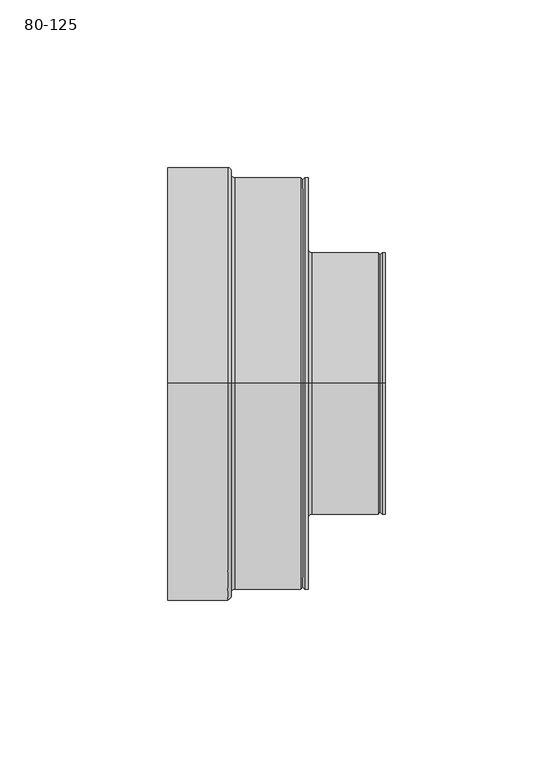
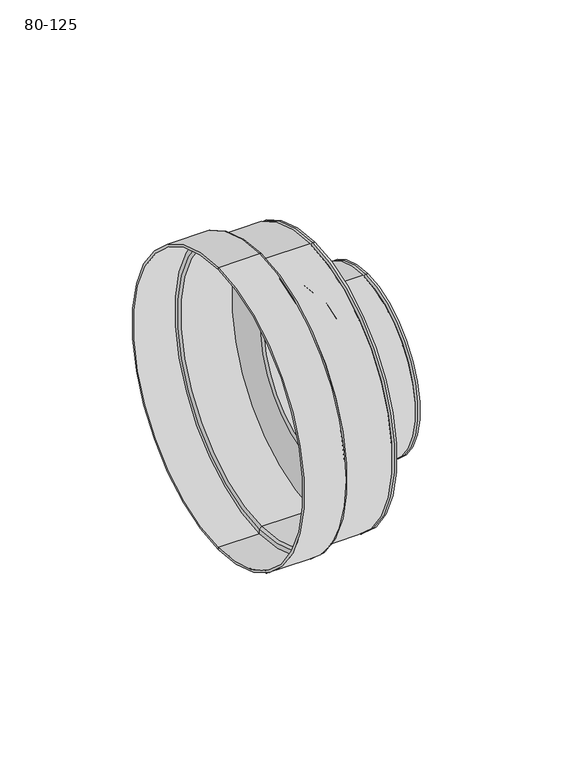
"""IFC4 building model written with IfcOpenShell, lengths in millimetres: duct fitting geometry, Renson_Healthbox 3_Reducer_Round_Adapter 80-125 : 80-125."""

from ifc_helpers import new_model, si_unit, point, frame, origin, place, context, project, spatial, polyline, circle_curve, ellipse_curve, trimmed, source, transform, mapped, element, save
from ifc_brep_helpers import plane_surface, cylinder_surface, revolved_surface, advanced_brep


def duct_fitting_80_125_58550554(model_context):
    return source(origin(), model_context, "Body", "AdvancedBrep", [
        advanced_brep(
        [(42.0, 0.0, 40.25), (42.0, 0.0, 61.75), (42.0, 0.0, -61.75), (42.0, 0.0, -40.25), (43.0, 0.0, 39.25), (43.0, 0.0, -39.25), (62.7977717, 0.0, 39.25), (62.7977717, 0.0, -39.25), (63.2928932, 0.0, 38.5428932), (63.2928932, 0.0, -38.5428932), (64.0, 0.0, 39.25), (64.0, 0.0, -39.25), (65.0, 0.0, 39.25), (65.0, 0.0, -39.25), (65.0, 0.0, 38.25), (65.0, 0.0, -38.25), (42.0, 0.0, 38.25), (42.0, 0.0, -38.25), (41.0, 0.0, 39.25), (41.0, 0.0, -39.25), (41.0, 0.0, 60.75), (41.0, 0.0, -60.75), (19.0, 0.0, 60.75), (19.0, 0.0, -60.75), (18.0, 0.0, 61.75), (18.0, 0.0, -61.75), (18.0, 0.0, 63.75), (18.0, 0.0, -63.75), (0.0, 0.0, 63.75), (0.0, 0.0, -63.75), (0.0, 0.0, 64.75), (0.0, 0.0, -64.75), (18.0, 0.0, 64.75), (18.0, 0.0, -64.75), (19.0, 0.0, 63.75), (19.0, 0.0, -63.75), (19.0, 0.0, 62.75), (19.0, 0.0, -62.75), (20.0, 0.0, 61.75), (20.0, 0.0, -61.75), (39.7977717, 0.0, 61.75), (39.7977717, 0.0, -61.75), (40.2928932, 0.0, 61.0428932), (40.2928932, 0.0, -61.0428932), (41.0, 0.0, 61.75), (41.0, 0.0, -61.75)],
        [
            (0, 1),
            (1, 2, circle_curve(frame((42.0, 0.0, 0.0), z_axis=(1.0, 0.0, 0.0), x_axis=(0.0, 0.0, -1.0)), 61.75)),
            (2, 3),
            (3, 0, circle_curve(frame((42.0, 0.0, 0.0), z_axis=(-1.0, 0.0, 0.0), x_axis=(0.0, 0.0, -1.0)), 40.25)),
            (2, 1, circle_curve(frame((42.0, 0.0, 0.0), z_axis=(1.0, 0.0, 0.0), x_axis=(0.0, 0.0, -1.0)), 61.75)),
            (0, 3, circle_curve(frame((42.0, 0.0, 0.0), z_axis=(-1.0, 0.0, 0.0), x_axis=(0.0, 0.0, -1.0)), 40.25)),
            (4, 0, circle_curve(frame((43.0, 0.0, 40.25), z_axis=(0.0, 1.0, 0.0), x_axis=(-1.0, 0.0, 0.0)), 1.0)),
            (3, 5, circle_curve(frame((43.0, 0.0, -40.25), z_axis=(0.0, 1.0, 0.0), x_axis=(-1.0, 0.0, 0.0)), 1.0)),
            (5, 4, circle_curve(frame((43.0, 0.0, 0.0), z_axis=(-1.0, 0.0, 0.0), x_axis=(0.0, 0.0, -1.0)), 39.25)),
            (4, 5, circle_curve(frame((43.0, 0.0, 0.0), z_axis=(-1.0, 0.0, 0.0), x_axis=(0.0, 0.0, -1.0)), 39.25)),
            (6, 4),
            (5, 7),
            (7, 6, circle_curve(frame((62.7977717, 0.0, 0.0), z_axis=(-1.0, 0.0, 0.0), x_axis=(0.0, 0.0, -1.0)), 39.25)),
            (6, 7, circle_curve(frame((62.7977717, 0.0, 0.0), z_axis=(-1.0, 0.0, 0.0), x_axis=(0.0, 0.0, -1.0)), 39.25)),
            (8, 6),
            (7, 9),
            (9, 8, circle_curve(frame((63.2928932, 0.0, 0.0), z_axis=(-1.0, 0.0, 0.0), x_axis=(0.0, 0.0, -1.0)), 38.5428932)),
            (8, 9, circle_curve(frame((63.2928932, 0.0, 0.0), z_axis=(-1.0, 0.0, 0.0), x_axis=(0.0, 0.0, -1.0)), 38.5428932)),
            (10, 8),
            (9, 11),
            (11, 10, circle_curve(frame((64.0, 0.0, 0.0), z_axis=(-1.0, 0.0, 0.0), x_axis=(0.0, 0.0, -1.0)), 39.25)),
            (10, 11, circle_curve(frame((64.0, 0.0, 0.0), z_axis=(-1.0, 0.0, 0.0), x_axis=(0.0, 0.0, -1.0)), 39.25)),
            (12, 10),
            (11, 13),
            (13, 12, circle_curve(frame((65.0, 0.0, 0.0), z_axis=(-1.0, 0.0, 0.0), x_axis=(0.0, 0.0, -1.0)), 39.25)),
            (12, 13, circle_curve(frame((65.0, 0.0, 0.0), z_axis=(-1.0, 0.0, 0.0), x_axis=(0.0, 0.0, -1.0)), 39.25)),
            (14, 12),
            (13, 15),
            (15, 14, circle_curve(frame((65.0, 0.0, 0.0), z_axis=(-1.0, 0.0, 0.0), x_axis=(0.0, 0.0, -1.0)), 38.25)),
            (14, 15, circle_curve(frame((65.0, 0.0, 0.0), z_axis=(-1.0, 0.0, 0.0), x_axis=(0.0, 0.0, -1.0)), 38.25)),
            (16, 14),
            (15, 17),
            (17, 16, circle_curve(frame((42.0, 0.0, 0.0), z_axis=(-1.0, 0.0, 0.0), x_axis=(0.0, 0.0, -1.0)), 38.25)),
            (16, 17, circle_curve(frame((42.0, 0.0, 0.0), z_axis=(-1.0, 0.0, 0.0), x_axis=(0.0, 0.0, -1.0)), 38.25)),
            (18, 16, circle_curve(frame((42.0, 0.0, 39.25), z_axis=(0.0, -1.0, 0.0), x_axis=(-1.0, 0.0, 0.0)), 1.0)),
            (17, 19, circle_curve(frame((42.0, 0.0, -39.25), z_axis=(0.0, -1.0, 0.0), x_axis=(-1.0, 0.0, 0.0)), 1.0)),
            (19, 18, circle_curve(frame((41.0, 0.0, 0.0), z_axis=(-1.0, 0.0, 0.0), x_axis=(0.0, 0.0, -1.0)), 39.25)),
            (18, 19, circle_curve(frame((41.0, 0.0, 0.0), z_axis=(-1.0, 0.0, 0.0), x_axis=(0.0, 0.0, -1.0)), 39.25)),
            (20, 18),
            (19, 21),
            (21, 20, circle_curve(frame((41.0, 0.0, 0.0), z_axis=(-1.0, 0.0, 0.0), x_axis=(0.0, 0.0, -1.0)), 60.75)),
            (20, 21, circle_curve(frame((41.0, 0.0, 0.0), z_axis=(-1.0, 0.0, 0.0), x_axis=(0.0, 0.0, -1.0)), 60.75)),
            (22, 20),
            (21, 23),
            (23, 22, circle_curve(frame((19.0, 0.0, 0.0), z_axis=(-1.0, 0.0, 0.0), x_axis=(0.0, 0.0, -1.0)), 60.75)),
            (22, 23, circle_curve(frame((19.0, 0.0, 0.0), z_axis=(-1.0, 0.0, 0.0), x_axis=(0.0, 0.0, -1.0)), 60.75)),
            (24, 22),
            (23, 25),
            (25, 24, circle_curve(frame((18.0, 0.0, 0.0), z_axis=(-1.0, 0.0, 0.0), x_axis=(0.0, 0.0, -1.0)), 61.75)),
            (24, 25, circle_curve(frame((18.0, 0.0, 0.0), z_axis=(-1.0, 0.0, 0.0), x_axis=(0.0, 0.0, -1.0)), 61.75)),
            (26, 24),
            (25, 27),
            (27, 26, circle_curve(frame((18.0, 0.0, 0.0), z_axis=(-1.0, 0.0, 0.0), x_axis=(0.0, 0.0, -1.0)), 63.75)),
            (26, 27, circle_curve(frame((18.0, 0.0, 0.0), z_axis=(-1.0, 0.0, 0.0), x_axis=(0.0, 0.0, -1.0)), 63.75)),
            (28, 26),
            (27, 29),
            (29, 28, circle_curve(frame((0.0, 0.0, 0.0), z_axis=(-1.0, 0.0, 0.0), x_axis=(0.0, 0.0, -1.0)), 63.75)),
            (28, 29, circle_curve(frame((0.0, 0.0, 0.0), z_axis=(-1.0, 0.0, 0.0), x_axis=(0.0, 0.0, -1.0)), 63.75)),
            (30, 28),
            (29, 31),
            (31, 30, circle_curve(frame((0.0, 0.0, 0.0), z_axis=(-1.0, 0.0, 0.0), x_axis=(0.0, 0.0, -1.0)), 64.75)),
            (30, 31, circle_curve(frame((0.0, 0.0, 0.0), z_axis=(-1.0, 0.0, 0.0), x_axis=(0.0, 0.0, -1.0)), 64.75)),
            (32, 30),
            (31, 33),
            (33, 32, circle_curve(frame((18.0, 0.0, 0.0), z_axis=(-1.0, 0.0, 0.0), x_axis=(0.0, 0.0, -1.0)), 64.75)),
            (32, 33, circle_curve(frame((18.0, 0.0, 0.0), z_axis=(-1.0, 0.0, 0.0), x_axis=(0.0, 0.0, -1.0)), 64.75)),
            (34, 32, circle_curve(frame((18.0, 0.0, 63.75), z_axis=(0.0, -1.0, 0.0), x_axis=(-1.0, 0.0, 0.0)), 1.0)),
            (33, 35, circle_curve(frame((18.0, 0.0, -63.75), z_axis=(0.0, -1.0, 0.0), x_axis=(-1.0, 0.0, 0.0)), 1.0)),
            (35, 34, circle_curve(frame((19.0, 0.0, 0.0), z_axis=(-1.0, 0.0, 0.0), x_axis=(0.0, 0.0, -1.0)), 63.75)),
            (34, 35, circle_curve(frame((19.0, 0.0, 0.0), z_axis=(-1.0, 0.0, 0.0), x_axis=(0.0, 0.0, -1.0)), 63.75)),
            (36, 34),
            (35, 37),
            (37, 36, circle_curve(frame((19.0, 0.0, 0.0), z_axis=(-1.0, 0.0, 0.0), x_axis=(0.0, 0.0, -1.0)), 62.75)),
            (36, 37, circle_curve(frame((19.0, 0.0, 0.0), z_axis=(-1.0, 0.0, 0.0), x_axis=(0.0, 0.0, -1.0)), 62.75)),
            (38, 36, circle_curve(frame((20.0, 0.0, 62.75), z_axis=(0.0, 1.0, 0.0), x_axis=(-1.0, 0.0, 0.0)), 1.0)),
            (37, 39, circle_curve(frame((20.0, 0.0, -62.75), z_axis=(0.0, 1.0, 0.0), x_axis=(-1.0, 0.0, 0.0)), 1.0)),
            (39, 38, circle_curve(frame((20.0, 0.0, 0.0), z_axis=(-1.0, 0.0, 0.0), x_axis=(0.0, 0.0, -1.0)), 61.75)),
            (38, 39, circle_curve(frame((20.0, 0.0, 0.0), z_axis=(-1.0, 0.0, 0.0), x_axis=(0.0, 0.0, -1.0)), 61.75)),
            (40, 38),
            (39, 41),
            (41, 40, circle_curve(frame((39.7977717, 0.0, 0.0), z_axis=(-1.0, 0.0, 0.0), x_axis=(0.0, 0.0, -1.0)), 61.75)),
            (40, 41, circle_curve(frame((39.7977717, 0.0, 0.0), z_axis=(-1.0, 0.0, 0.0), x_axis=(0.0, 0.0, -1.0)), 61.75)),
            (42, 40),
            (41, 43),
            (43, 42, circle_curve(frame((40.2928932, 0.0, 0.0), z_axis=(-1.0, 0.0, 0.0), x_axis=(0.0, 0.0, -1.0)), 61.0428932)),
            (42, 43, circle_curve(frame((40.2928932, 0.0, 0.0), z_axis=(-1.0, 0.0, 0.0), x_axis=(0.0, 0.0, -1.0)), 61.0428932)),
            (44, 42),
            (43, 45),
            (45, 44, circle_curve(frame((41.0, 0.0, 0.0), z_axis=(-1.0, 0.0, 0.0), x_axis=(0.0, 0.0, -1.0)), 61.75)),
            (44, 45, circle_curve(frame((41.0, 0.0, 0.0), z_axis=(-1.0, 0.0, 0.0), x_axis=(0.0, 0.0, -1.0)), 61.75)),
            (1, 44),
            (45, 2),
        ],
        [
            plane_surface(frame((42.0, 0.0, 0.0), z_axis=(1.0, 0.0, 0.0), x_axis=(0.0, 0.0, -1.0))),
            revolved_surface(trimmed(ellipse_curve(frame((43.0, 0.0, -40.25), z_axis=(0.0, 1.0, 0.0), x_axis=(-1.0, 0.0, 0.0)), 1.0, 1.0), [point((42.0, 0.0, -40.25))], [point((43.0, 0.0, -39.25))], True, "CARTESIAN"), (75.0, 0.0, 0.0), (1.0, 0.0, 0.0)),
            cylinder_surface(frame((75.0, 0.0, 0.0), z_axis=(1.0, 0.0, 0.0), x_axis=(0.0, 0.0, -1.0)), 39.25),
            revolved_surface(polyline([(62.7977717, 0.0, -39.25), (63.2928932, 0.0, -38.5428932)]), (75.0, 0.0, 0.0), (1.0, 0.0, 0.0)),
            revolved_surface(polyline([(63.2928932, 0.0, -38.5428932), (64.0, 0.0, -39.25)]), (75.0, 0.0, 0.0), (1.0, 0.0, 0.0)),
            plane_surface(frame((65.0, 0.0, 0.0), z_axis=(1.0, 0.0, 0.0), x_axis=(0.0, 0.0, -1.0))),
            revolved_surface(polyline([(65.0, 0.0, -38.25), (42.0, 0.0, -38.25)]), (75.0, 0.0, 0.0), (1.0, 0.0, 0.0)),
            revolved_surface(trimmed(ellipse_curve(frame((42.0, 0.0, -39.25), z_axis=(0.0, -1.0, 0.0), x_axis=(-1.0, 0.0, 0.0)), 1.0, 1.0), [point((42.0, 0.0, -38.25))], [point((41.0, 0.0, -39.25))], True, "CARTESIAN"), (75.0, 0.0, 0.0), (1.0, 0.0, 0.0)),
            plane_surface(frame((41.0, 0.0, 0.0), z_axis=(-1.0, 0.0, 0.0), x_axis=(0.0, 0.0, -1.0))),
            revolved_surface(polyline([(41.0, 0.0, -60.75), (19.0, 0.0, -60.75)]), (75.0, 0.0, 0.0), (1.0, 0.0, 0.0)),
            revolved_surface(polyline([(19.0, 0.0, -60.75), (18.0, 0.0, -61.75)]), (75.0, 0.0, 0.0), (1.0, 0.0, 0.0)),
            plane_surface(frame((18.0, 0.0, 0.0), z_axis=(-1.0, 0.0, 0.0), x_axis=(0.0, 0.0, -1.0))),
            revolved_surface(polyline([(18.0, 0.0, -63.75), (0.0, 0.0, -63.75)]), (75.0, 0.0, 0.0), (1.0, 0.0, 0.0)),
            plane_surface(frame((0.0, 0.0, 0.0), z_axis=(-1.0, 0.0, 0.0), x_axis=(0.0, 0.0, -1.0))),
            cylinder_surface(frame((75.0, 0.0, 0.0), z_axis=(1.0, 0.0, 0.0), x_axis=(0.0, 0.0, -1.0)), 64.75),
            revolved_surface(trimmed(ellipse_curve(frame((18.0, 0.0, -63.75), z_axis=(0.0, -1.0, 0.0), x_axis=(-1.0, 0.0, 0.0)), 1.0, 1.0), [point((18.0, 0.0, -64.75))], [point((19.0, 0.0, -63.75))], True, "CARTESIAN"), (75.0, 0.0, 0.0), (1.0, 0.0, 0.0)),
            plane_surface(frame((19.0, 0.0, 0.0), z_axis=(1.0, 0.0, 0.0), x_axis=(0.0, 0.0, -1.0))),
            revolved_surface(trimmed(ellipse_curve(frame((20.0, 0.0, -62.75), z_axis=(0.0, 1.0, 0.0), x_axis=(-1.0, 0.0, 0.0)), 1.0, 1.0), [point((19.0, 0.0, -62.75))], [point((20.0, 0.0, -61.75))], True, "CARTESIAN"), (75.0, 0.0, 0.0), (1.0, 0.0, 0.0)),
            cylinder_surface(frame((75.0, 0.0, 0.0), z_axis=(1.0, 0.0, 0.0), x_axis=(0.0, 0.0, -1.0)), 61.75),
            revolved_surface(polyline([(39.7977717, 0.0, -61.75), (40.2928932, 0.0, -61.0428932)]), (75.0, 0.0, 0.0), (1.0, 0.0, 0.0)),
            revolved_surface(polyline([(40.2928932, 0.0, -61.0428932), (41.0, 0.0, -61.75)]), (75.0, 0.0, 0.0), (1.0, 0.0, 0.0)),
        ],
        [
            (0, [[1, 2, 3, 4]]),
            (0, [[-3, 5, -1, 6]]),
            (1, [[7, -4, 8, 9]]),
            (1, [[-8, -6, -7, 10]]),
            (2, [[11, -9, 12, 13]]),
            (2, [[-12, -10, -11, 14]]),
            (3, [[15, -13, 16, 17]]),
            (3, [[-16, -14, -15, 18]]),
            (4, [[19, -17, 20, 21]]),
            (4, [[-20, -18, -19, 22]]),
            (2, [[23, -21, 24, 25]]),
            (2, [[-24, -22, -23, 26]]),
            (5, [[27, -25, 28, 29]]),
            (5, [[-28, -26, -27, 30]]),
            (6, [[31, -29, 32, 33]]),
            (6, [[-32, -30, -31, 34]]),
            (7, [[35, -33, 36, 37]]),
            (7, [[-36, -34, -35, 38]]),
            (8, [[39, -37, 40, 41]]),
            (8, [[-40, -38, -39, 42]]),
            (9, [[43, -41, 44, 45]]),
            (9, [[-44, -42, -43, 46]]),
            (10, [[47, -45, 48, 49]]),
            (10, [[-48, -46, -47, 50]]),
            (11, [[51, -49, 52, 53]]),
            (11, [[-52, -50, -51, 54]]),
            (12, [[55, -53, 56, 57]]),
            (12, [[-56, -54, -55, 58]]),
            (13, [[59, -57, 60, 61]]),
            (13, [[-60, -58, -59, 62]]),
            (14, [[63, -61, 64, 65]]),
            (14, [[-64, -62, -63, 66]]),
            (15, [[67, -65, 68, 69]]),
            (15, [[-68, -66, -67, 70]]),
            (16, [[71, -69, 72, 73]]),
            (16, [[-72, -70, -71, 74]]),
            (17, [[75, -73, 76, 77]]),
            (17, [[-76, -74, -75, 78]]),
            (18, [[79, -77, 80, 81]]),
            (18, [[-80, -78, -79, 82]]),
            (19, [[83, -81, 84, 85]]),
            (19, [[-84, -82, -83, 86]]),
            (20, [[87, -85, 88, 89]]),
            (20, [[-88, -86, -87, 90]]),
            (18, [[91, -89, 92, -2]]),
            (18, [[-92, -90, -91, -5]]),
        ],
    ),
    ])


if __name__ == "__main__":
    model = new_model("IFC4")
    model_context = context("Model", 3, world=origin())
    ifc_project = project(units=[si_unit("LENGTHUNIT", "METRE", prefix="MILLI")], contexts=[model_context])
    site = spatial("IfcSite", under=ifc_project)
    building = spatial("IfcBuilding", under=site)
    placement = place(None, origin())
    duct_fitting_80_125_shape = duct_fitting_80_125_58550554(model_context)
    element("IfcDuctFitting", 1, ObjectType="Renson_Healthbox 3_Reducer_Round_Adapter 80-125 : 80-125", at=placement, inside=building, context=model_context, shape_type="MappedRepresentation", body=[
        mapped(duct_fitting_80_125_shape, transform((0.0, 0.0, 0.0), x_axis=(1.0, 0.0, 0.0), y_axis=(0.0, 1.0, 0.0), z_axis=(0.0, 0.0, 1.0))),
    ])
    save(model, "model.ifc")
